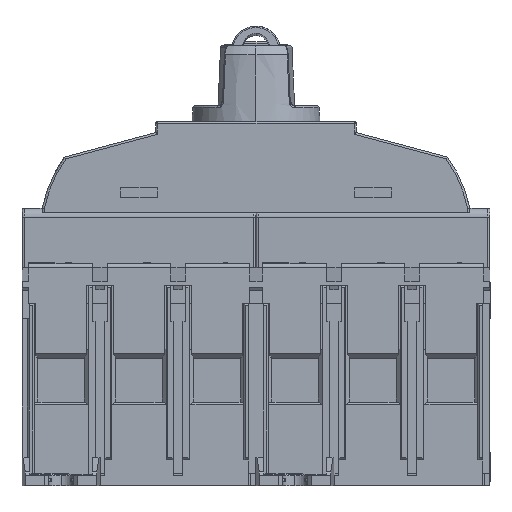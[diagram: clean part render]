
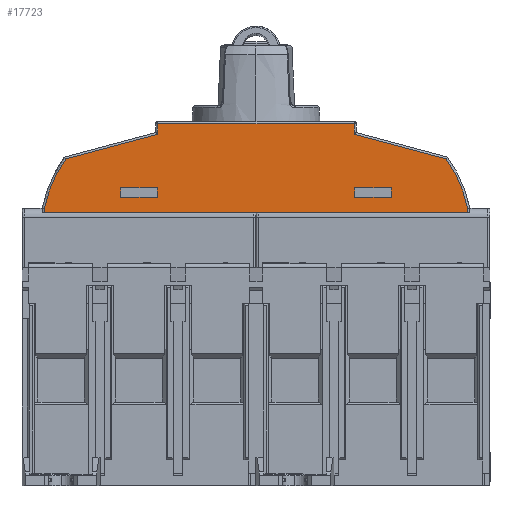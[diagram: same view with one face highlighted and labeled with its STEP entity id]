
A CAD part, left-side view. The second image highlights one B-rep face of the part: STEP entity #17723.
In plain terms, the highlighted planar face has unit normal (-1, 0, 0).
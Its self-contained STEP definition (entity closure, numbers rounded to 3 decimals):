
#115 = CARTESIAN_POINT ( 'NONE',  ( 77.485, 21.827, -6.048 ) ) ;
#838 = CARTESIAN_POINT ( 'NONE',  ( 77.485, -22.323, 2.38 ) ) ;
#3369 = EDGE_CURVE ( 'NONE', #76034, #16767, #5813, .T. ) ;
#4594 = CARTESIAN_POINT ( 'NONE',  ( 77.485, 21.977, 2.4 ) ) ;
#5344 = LINE ( 'NONE', #47097, #61300 ) ;
#5503 = VECTOR ( 'NONE', #16768, 1000. ) ;
#5813 = LINE ( 'NONE', #15811, #100405 ) ;
#5994 = VECTOR ( 'NONE', #11308, 1000. ) ;
#8456 = LINE ( 'NONE', #115, #9408 ) ;
#9016 = ORIENTED_EDGE ( 'NONE', *, *, #18309, .T. ) ;
#9408 = VECTOR ( 'NONE', #61278, 1000. ) ;
#10786 = EDGE_CURVE ( 'NONE', #28431, #93887, #5344, .T. ) ;
#11308 = DIRECTION ( 'NONE',  ( 0., 0.966, -0.259 ) ) ;
#13336 = EDGE_CURVE ( 'NONE', #101164, #44562, #76143, .T. ) ;
#13730 = EDGE_CURVE ( 'NONE', #40173, #28431, #36343, .T. ) ;
#14166 = DIRECTION ( 'NONE',  ( 0., -1., 0. ) ) ;
#14214 = LINE ( 'NONE', #15326, #16898 ) ;
#14881 = EDGE_CURVE ( 'NONE', #105929, #27320, #32971, .T. ) ;
#15326 = CARTESIAN_POINT ( 'NONE',  ( 77.485, 47.317, -0.1 ) ) ;
#15432 = CARTESIAN_POINT ( 'NONE',  ( 77.485, -47.663, -0.1 ) ) ;
#15561 = CARTESIAN_POINT ( 'NONE',  ( 77.485, -22.323, 4.4 ) ) ;
#15811 = CARTESIAN_POINT ( 'NONE',  ( 77.485, 22.077, 4.5 ) ) ;
#16126 = EDGE_CURVE ( 'NONE', #93887, #20276, #8456, .T. ) ;
#16767 = VERTEX_POINT ( 'NONE', #44869 ) ;
#16768 = DIRECTION ( 'NONE',  ( 0., 0., -1. ) ) ;
#16824 = EDGE_CURVE ( 'NONE', #44562, #76034, #79907, .T. ) ;
#16898 = VECTOR ( 'NONE', #108826, 1000. ) ;
#17079 = EDGE_CURVE ( 'NONE', #16767, #101164, #20202, .T. ) ;
#17180 = ORIENTED_EDGE ( 'NONE', *, *, #25528, .T. ) ;
#17380 = EDGE_CURVE ( 'NONE', #20276, #97019, #70830, .T. ) ;
#17723 = ADVANCED_FACE ( 'NONE', ( #60724, #96324, #94681 ), #35699, .F. ) ;
#18309 = EDGE_CURVE ( 'NONE', #92025, #27320, #14214, .T. ) ;
#19309 = DIRECTION ( 'NONE',  ( 0., 0., -1. ) ) ;
#20202 = LINE ( 'NONE', #4594, #41607 ) ;
#20276 = VERTEX_POINT ( 'NONE', #40132 ) ;
#21038 = EDGE_CURVE ( 'NONE', #86728, #23007, #106335, .T. ) ;
#21519 = VECTOR ( 'NONE', #110118, 1000. ) ;
#21527 = DIRECTION ( 'NONE',  ( 0., 1., 0. ) ) ;
#21874 = ORIENTED_EDGE ( 'NONE', *, *, #66839, .T. ) ;
#23007 = VERTEX_POINT ( 'NONE', #50163 ) ;
#25528 = EDGE_CURVE ( 'NONE', #45538, #105362, #37696, .T. ) ;
#27320 = VERTEX_POINT ( 'NONE', #94969 ) ;
#27412 = ORIENTED_EDGE ( 'NONE', *, *, #93278, .T. ) ;
#27900 = DIRECTION ( 'NONE',  ( 0., 1., 0. ) ) ;
#28029 = EDGE_LOOP ( 'NONE', ( #78625, #85427, #29395, #84315, #9016, #98603, #33156, #36770, #27412, #91206 ) ) ;
#28403 = VECTOR ( 'NONE', #101246, 1000. ) ;
#28431 = VERTEX_POINT ( 'NONE', #73781 ) ;
#28608 = DIRECTION ( 'NONE',  ( 0., 0., -1. ) ) ;
#29395 = ORIENTED_EDGE ( 'NONE', *, *, #17380, .T. ) ;
#32971 = LINE ( 'NONE', #66337, #107017 ) ;
#33156 = ORIENTED_EDGE ( 'NONE', *, *, #53202, .F. ) ;
#34066 = VECTOR ( 'NONE', #84925, 1000. ) ;
#34148 = CIRCLE ( 'NONE', #69612, 29.5 ) ;
#34656 = DIRECTION ( 'NONE',  ( 0., 1., 0. ) ) ;
#35038 = CARTESIAN_POINT ( 'NONE',  ( 77.485, -30.523, 2.38 ) ) ;
#35108 = CARTESIAN_POINT ( 'NONE',  ( 77.485, -47.663, -1.1 ) ) ;
#35461 = CARTESIAN_POINT ( 'NONE',  ( 77.485, -18.769, -6.048 ) ) ;
#35699 = PLANE ( 'NONE',  #54043 ) ;
#36343 = LINE ( 'NONE', #67661, #34066 ) ;
#36770 = ORIENTED_EDGE ( 'NONE', *, *, #21038, .T. ) ;
#37696 = LINE ( 'NONE', #54364, #92497 ) ;
#38226 = EDGE_CURVE ( 'NONE', #105362, #45317, #59060, .T. ) ;
#38288 = CARTESIAN_POINT ( 'NONE',  ( 77.485, 42.523, 10.964 ) ) ;
#38664 = CARTESIAN_POINT ( 'NONE',  ( 77.485, -30.523, 4.5 ) ) ;
#39705 = VECTOR ( 'NONE', #87723, 1000. ) ;
#40098 = ORIENTED_EDGE ( 'NONE', *, *, #96723, .T. ) ;
#40132 = CARTESIAN_POINT ( 'NONE',  ( 77.485, 21.827, 16.516 ) ) ;
#40173 = VERTEX_POINT ( 'NONE', #81526 ) ;
#41607 = VECTOR ( 'NONE', #54118, 1000. ) ;
#42158 = CARTESIAN_POINT ( 'NONE',  ( 77.485, -22.323, 4.5 ) ) ;
#42713 = DIRECTION ( 'NONE',  ( -1., 0., 0. ) ) ;
#43449 = CARTESIAN_POINT ( 'NONE',  ( 77.485, -47.663, -0.1 ) ) ;
#44562 = VERTEX_POINT ( 'NONE', #70847 ) ;
#44869 = CARTESIAN_POINT ( 'NONE',  ( 77.485, 21.977, 4.5 ) ) ;
#45317 = VERTEX_POINT ( 'NONE', #35038 ) ;
#45538 = VERTEX_POINT ( 'NONE', #42158 ) ;
#46430 = ORIENTED_EDGE ( 'NONE', *, *, #17079, .T. ) ;
#47097 = CARTESIAN_POINT ( 'NONE',  ( 77.485, -18.769, 18.9 ) ) ;
#49360 = DIRECTION ( 'NONE',  ( 0., 0., -1. ) ) ;
#50163 = CARTESIAN_POINT ( 'NONE',  ( 77.485, -42.87, 10.964 ) ) ;
#50735 = ORIENTED_EDGE ( 'NONE', *, *, #38226, .T. ) ;
#52429 = ORIENTED_EDGE ( 'NONE', *, *, #13336, .T. ) ;
#52748 = CARTESIAN_POINT ( 'NONE',  ( 77.485, 30.077, 2.38 ) ) ;
#53202 = EDGE_CURVE ( 'NONE', #86728, #105929, #91684, .T. ) ;
#53764 = CARTESIAN_POINT ( 'NONE',  ( 77.485, 30.177, 4.4 ) ) ;
#54017 = DIRECTION ( 'NONE',  ( 1., 0., 0. ) ) ;
#54043 = AXIS2_PLACEMENT_3D ( 'NONE', #77424, #54017, #27900 ) ;
#54118 = DIRECTION ( 'NONE',  ( 0., 0., -1. ) ) ;
#54364 = CARTESIAN_POINT ( 'NONE',  ( 77.485, -30.423, 4.5 ) ) ;
#55831 = CARTESIAN_POINT ( 'NONE',  ( 77.485, 18.422, -6.048 ) ) ;
#58342 = AXIS2_PLACEMENT_3D ( 'NONE', #35461, #42713, #19309 ) ;
#59060 = LINE ( 'NONE', #93016, #5503 ) ;
#59152 = CARTESIAN_POINT ( 'NONE',  ( 77.485, -22.423, 2.38 ) ) ;
#60724 = FACE_OUTER_BOUND ( 'NONE', #28029, .T. ) ;
#60808 = DIRECTION ( 'NONE',  ( 0., 0.966, 0.259 ) ) ;
#61278 = DIRECTION ( 'NONE',  ( 0., 0., -1. ) ) ;
#61300 = VECTOR ( 'NONE', #21527, 1000. ) ;
#63044 = CARTESIAN_POINT ( 'NONE',  ( 77.485, -10.395, 25.161 ) ) ;
#66337 = CARTESIAN_POINT ( 'NONE',  ( 77.485, -48.022, -1.1 ) ) ;
#66839 = EDGE_CURVE ( 'NONE', #45317, #88904, #67481, .T. ) ;
#67430 = CARTESIAN_POINT ( 'NONE',  ( 77.485, 21.977, 2.38 ) ) ;
#67481 = LINE ( 'NONE', #59152, #93919 ) ;
#67661 = CARTESIAN_POINT ( 'NONE',  ( 77.485, -22.173, -6.048 ) ) ;
#69612 = AXIS2_PLACEMENT_3D ( 'NONE', #55831, #79238, #28608 ) ;
#70830 = LINE ( 'NONE', #63044, #5994 ) ;
#70847 = CARTESIAN_POINT ( 'NONE',  ( 77.485, 30.177, 2.38 ) ) ;
#73781 = CARTESIAN_POINT ( 'NONE',  ( 77.485, -22.173, 18.9 ) ) ;
#74681 = DIRECTION ( 'NONE',  ( 0., 1., 0. ) ) ;
#75905 = ORIENTED_EDGE ( 'NONE', *, *, #16824, .T. ) ;
#76034 = VERTEX_POINT ( 'NONE', #76800 ) ;
#76143 = LINE ( 'NONE', #52748, #21519 ) ;
#76800 = CARTESIAN_POINT ( 'NONE',  ( 77.485, 30.177, 4.5 ) ) ;
#77424 = CARTESIAN_POINT ( 'NONE',  ( 77.485, -18.769, -6.048 ) ) ;
#77697 = EDGE_LOOP ( 'NONE', ( #46430, #52429, #75905, #88398 ) ) ;
#78625 = ORIENTED_EDGE ( 'NONE', *, *, #10786, .T. ) ;
#79238 = DIRECTION ( 'NONE',  ( -1., 0., 0. ) ) ;
#79907 = LINE ( 'NONE', #53764, #39705 ) ;
#80246 = EDGE_CURVE ( 'NONE', #97019, #92025, #34148, .T. ) ;
#81078 = DIRECTION ( 'NONE',  ( 0., -1., 0. ) ) ;
#81526 = CARTESIAN_POINT ( 'NONE',  ( 77.485, -22.173, 16.516 ) ) ;
#84315 = ORIENTED_EDGE ( 'NONE', *, *, #80246, .T. ) ;
#84783 = LINE ( 'NONE', #92594, #99281 ) ;
#84925 = DIRECTION ( 'NONE',  ( 0., 0., 1. ) ) ;
#85427 = ORIENTED_EDGE ( 'NONE', *, *, #16126, .T. ) ;
#86728 = VERTEX_POINT ( 'NONE', #43449 ) ;
#87723 = DIRECTION ( 'NONE',  ( 0., 0., 1. ) ) ;
#88398 = ORIENTED_EDGE ( 'NONE', *, *, #3369, .T. ) ;
#88904 = VERTEX_POINT ( 'NONE', #838 ) ;
#90679 = CARTESIAN_POINT ( 'NONE',  ( 77.485, 21.827, 18.9 ) ) ;
#91206 = ORIENTED_EDGE ( 'NONE', *, *, #13730, .T. ) ;
#91684 = LINE ( 'NONE', #15432, #97830 ) ;
#92025 = VERTEX_POINT ( 'NONE', #100371 ) ;
#92497 = VECTOR ( 'NONE', #81078, 1000. ) ;
#92594 = CARTESIAN_POINT ( 'NONE',  ( 77.485, -24.644, 15.853 ) ) ;
#93016 = CARTESIAN_POINT ( 'NONE',  ( 77.485, -30.523, 2.4 ) ) ;
#93278 = EDGE_CURVE ( 'NONE', #23007, #40173, #84783, .T. ) ;
#93440 = LINE ( 'NONE', #15561, #28403 ) ;
#93887 = VERTEX_POINT ( 'NONE', #90679 ) ;
#93919 = VECTOR ( 'NONE', #34656, 1000. ) ;
#94681 = FACE_BOUND ( 'NONE', #77697, .T. ) ;
#94969 = CARTESIAN_POINT ( 'NONE',  ( 77.485, 47.317, -1.1 ) ) ;
#96324 = FACE_BOUND ( 'NONE', #103859, .T. ) ;
#96723 = EDGE_CURVE ( 'NONE', #88904, #45538, #93440, .T. ) ;
#97019 = VERTEX_POINT ( 'NONE', #38288 ) ;
#97830 = VECTOR ( 'NONE', #49360, 1000. ) ;
#98603 = ORIENTED_EDGE ( 'NONE', *, *, #14881, .F. ) ;
#99281 = VECTOR ( 'NONE', #60808, 1000. ) ;
#100371 = CARTESIAN_POINT ( 'NONE',  ( 77.485, 47.317, -0.1 ) ) ;
#100405 = VECTOR ( 'NONE', #14166, 1000. ) ;
#101164 = VERTEX_POINT ( 'NONE', #67430 ) ;
#101246 = DIRECTION ( 'NONE',  ( 0., 0., 1. ) ) ;
#103859 = EDGE_LOOP ( 'NONE', ( #50735, #21874, #40098, #17180 ) ) ;
#105362 = VERTEX_POINT ( 'NONE', #38664 ) ;
#105929 = VERTEX_POINT ( 'NONE', #35108 ) ;
#106335 = CIRCLE ( 'NONE', #58342, 29.5 ) ;
#107017 = VECTOR ( 'NONE', #74681, 1000. ) ;
#108826 = DIRECTION ( 'NONE',  ( 0., 0., -1. ) ) ;
#110118 = DIRECTION ( 'NONE',  ( 0., 1., 0. ) ) ;
